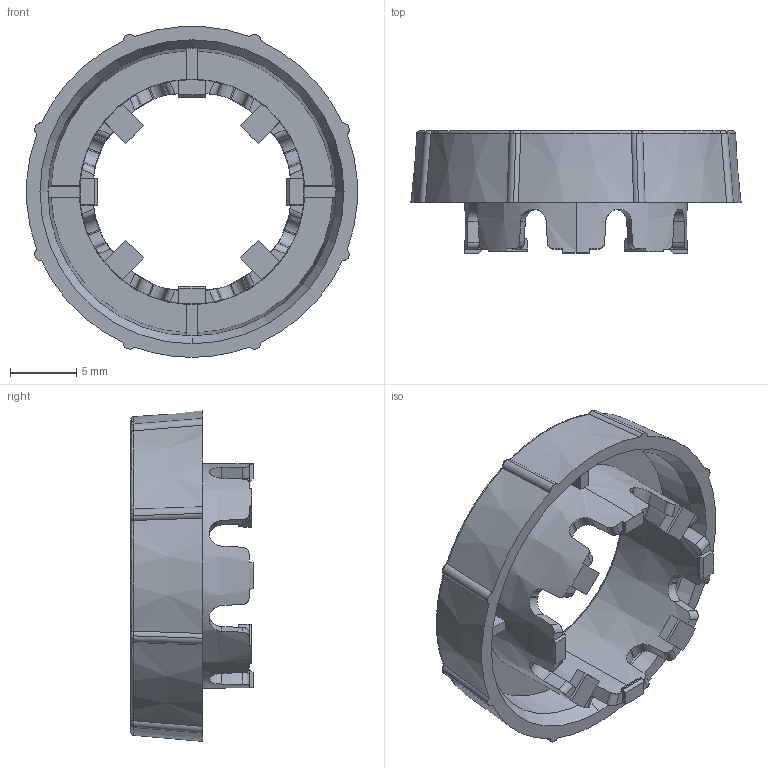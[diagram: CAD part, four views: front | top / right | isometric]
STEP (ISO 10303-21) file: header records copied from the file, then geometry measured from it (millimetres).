
FILE_DESCRIPTION (( 'STEP AP203' ), '1' );
FILE_NAME ('292 Knob recom.STEP', '2020-03-04T13:24:01', ( '' ), ( '' ), 'SwSTEP 2.0', 'SolidWorks 2019', '' );
FILE_SCHEMA (( 'CONFIG_CONTROL_DESIGN' ));
Length unit declared in the file: millimetre
Products named in the file (1): 292 Knob recom
Bounding box: 24.88 x 9.2 x 24.91 mm (x, y, z)
Volume: 1179.2 mm3; surface area: 2019.4 mm2
Topology: 1 solids, 1 shells, 218 faces, 616 edges, 400 vertices
Faces by surface type: plane 126, cylinder 44, bspline 31, cone 17
Entity records: 9124 total; most frequent: CARTESIAN_POINT 4018, ORIENTED_EDGE 1232, DIRECTION 846, EDGE_CURVE 616, VERTEX_POINT 400, AXIS2_PLACEMENT_3D 306, LINE 234, VECTOR 234
